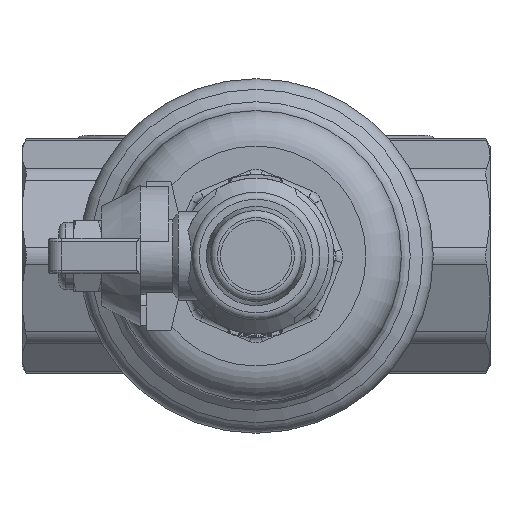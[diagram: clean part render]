
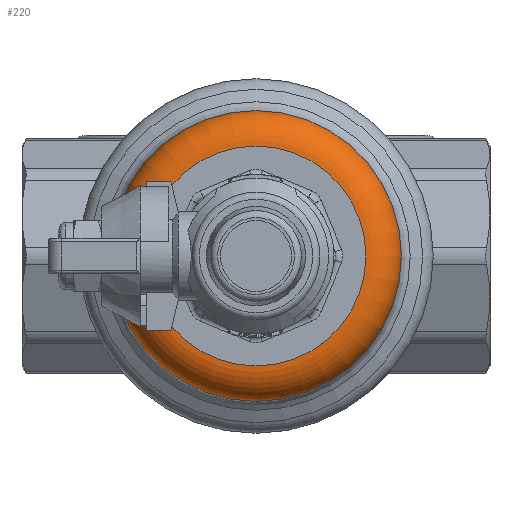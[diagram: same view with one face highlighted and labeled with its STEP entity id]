
A CAD part, front view. The second image highlights one B-rep face of the part: STEP entity #220.
In plain terms, the highlighted toroidal (fillet/blend) face has major radius 15.5 mm and minor radius 5 mm.
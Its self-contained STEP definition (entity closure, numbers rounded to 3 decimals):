
#220=ADVANCED_FACE('',(#2496,#2498),#2500,.T.);
#2496=FACE_OUTER_BOUND('',#2497,.T.);
#2497=EDGE_LOOP('',(#9537));
#2498=FACE_OUTER_BOUND('',#2499,.T.);
#2499=EDGE_LOOP('',(#9538));
#2500=TOROIDAL_SURFACE('',#2501,15.5,5.);
#2501=AXIS2_PLACEMENT_3D('',#2502,#2503,#2504);
#2502=CARTESIAN_POINT('',(0.,-95.,0.));
#2503=DIRECTION('',(0.,1.,0.));
#2504=DIRECTION('',(-1.,0.,0.));
#9537=ORIENTED_EDGE('',*,*,#15213,.T.);
#9538=ORIENTED_EDGE('',*,*,#15211,.F.);
#15211=EDGE_CURVE('',#18107,#18107,#18108,.T.);
#15213=EDGE_CURVE('',#18111,#18111,#18112,.T.);
#18107=VERTEX_POINT('',#28014);
#18108=CIRCLE('',#28015,20.5);
#18111=VERTEX_POINT('',#28024);
#18112=CIRCLE('',#28025,15.5);
#28014=CARTESIAN_POINT('',(-20.5,-95.,0.));
#28015=AXIS2_PLACEMENT_3D('',#28016,#28017,#28018);
#28016=CARTESIAN_POINT('',(0.,-95.,0.));
#28017=DIRECTION('',(0.,1.,0.));
#28018=DIRECTION('',(-1.,0.,0.));
#28024=CARTESIAN_POINT('',(-15.5,-100.,0.));
#28025=AXIS2_PLACEMENT_3D('',#28026,#28027,#28028);
#28026=CARTESIAN_POINT('',(0.,-100.,0.));
#28027=DIRECTION('',(0.,1.,0.));
#28028=DIRECTION('',(-1.,0.,0.));
